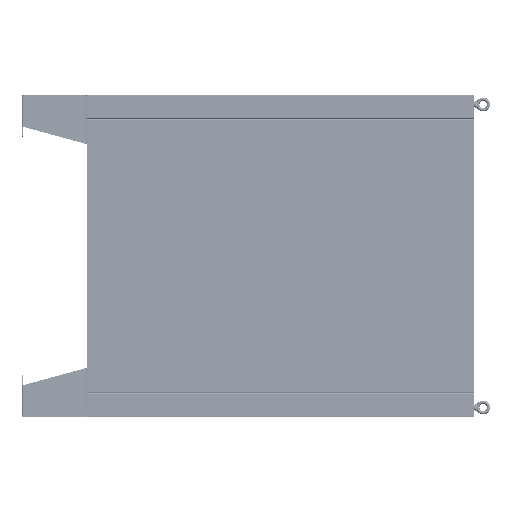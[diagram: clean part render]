
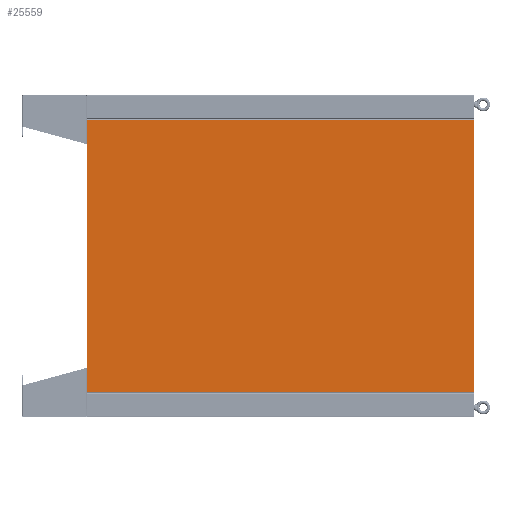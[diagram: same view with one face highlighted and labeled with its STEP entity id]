
A CAD part, left-side view. The second image highlights one B-rep face of the part: STEP entity #25559.
In plain terms, the highlighted planar face has unit normal (-1, 0, 0) as drawn and (0, 1, 0) by its records, which use the part's own axes.
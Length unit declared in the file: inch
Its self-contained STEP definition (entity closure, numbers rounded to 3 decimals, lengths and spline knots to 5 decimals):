
#24208=DIRECTION('',(-1.,0.,0.));
#24209=VECTOR('',#24208,50.622);
#24210=CARTESIAN_POINT('',(25.311,0.,35.896));
#24211=LINE('',#24210,#24209);
#24251=DIRECTION('',(0.,0.,1.));
#24252=VECTOR('',#24251,71.792);
#24253=CARTESIAN_POINT('',(25.311,0.,-35.896));
#24254=LINE('',#24253,#24252);
#24338=DIRECTION('',(-1.,0.,0.));
#24339=VECTOR('',#24338,50.622);
#24340=CARTESIAN_POINT('',(25.311,0.,-35.896));
#24341=LINE('',#24340,#24339);
#24381=DIRECTION('',(0.,0.,-1.));
#24382=VECTOR('',#24381,71.792);
#24383=CARTESIAN_POINT('',(-25.311,0.,35.896));
#24384=LINE('',#24383,#24382);
#25356=CARTESIAN_POINT('',(-25.311,0.,-35.896));
#25357=VERTEX_POINT('',#25356);
#25358=CARTESIAN_POINT('',(-25.311,0.,35.896));
#25359=VERTEX_POINT('',#25358);
#25372=CARTESIAN_POINT('',(25.311,0.,35.896));
#25373=VERTEX_POINT('',#25372);
#25374=CARTESIAN_POINT('',(25.311,0.,-35.896));
#25375=VERTEX_POINT('',#25374);
#25544=CARTESIAN_POINT('',(25.5,0.,35.896));
#25545=DIRECTION('',(0.,1.,0.));
#25546=DIRECTION('',(-1.,0.,0.));
#25547=AXIS2_PLACEMENT_3D('',#25544,#25545,#25546);
#25548=PLANE('',#25547);
#25550=ORIENTED_EDGE('',*,*,#25549,.T.);
#25552=ORIENTED_EDGE('',*,*,#25551,.T.);
#25554=ORIENTED_EDGE('',*,*,#25553,.F.);
#25556=ORIENTED_EDGE('',*,*,#25555,.T.);
#25557=EDGE_LOOP('',(#25550,#25552,#25554,#25556));
#25558=FACE_OUTER_BOUND('',#25557,.F.);
#25549=EDGE_CURVE('',#25373,#25359,#24211,.T.);
#25551=EDGE_CURVE('',#25359,#25357,#24384,.T.);
#25553=EDGE_CURVE('',#25375,#25357,#24341,.T.);
#25555=EDGE_CURVE('',#25375,#25373,#24254,.T.);
#25559=ADVANCED_FACE('',(#25558),#25548,.T.);
